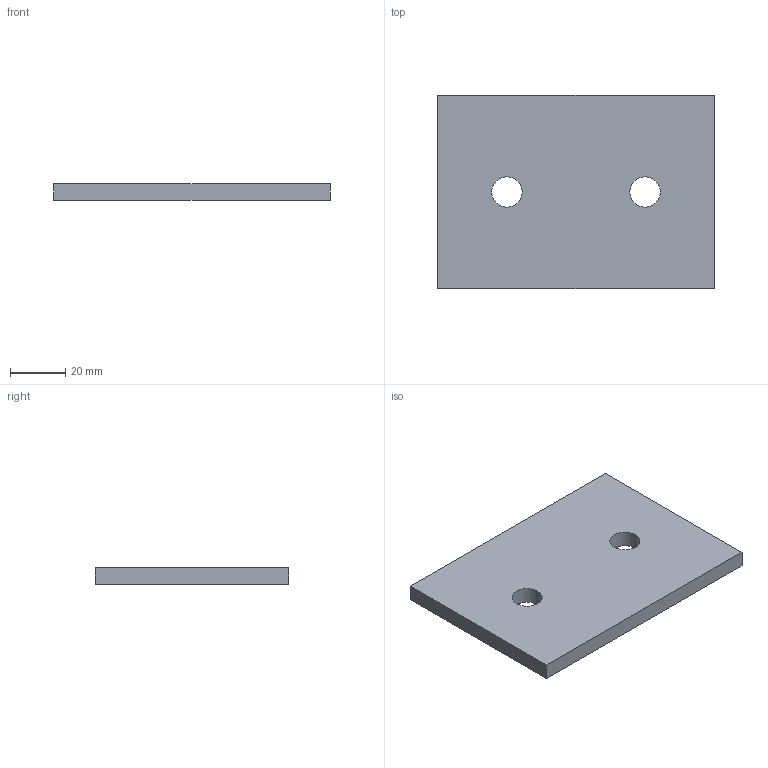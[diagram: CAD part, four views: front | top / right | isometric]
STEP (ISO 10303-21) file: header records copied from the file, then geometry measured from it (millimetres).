
FILE_DESCRIPTION(('Open CASCADE Model'),'2;1');
FILE_NAME('Open CASCADE Shape Model','2026-10-15T15:10:04',('Author'),( 'Open CASCADE'),'Open CASCADE STEP processor 8.0','Open CASCADE 8.0' ,'Unknown');
FILE_SCHEMA(('AUTOMOTIVE_DESIGN { 1 0 10303 214 1 1 1 1 }'));
Length unit declared in the file: millimetre
Products named in the file (1): J02_PLACA_100x70x6_P05 76
Bounding box: 100 x 70 x 6 mm (x, y, z)
Volume: 40859.6 mm3; surface area: 16074.6 mm2
Topology: 1 solids, 1 shells, 8 faces, 18 edges, 12 vertices
Faces by surface type: plane 6, cylinder 2
Full cylindrical faces by diameter (mm): 11 x2
Entity records: 478 total; most frequent: DIRECTION 76, CARTESIAN_POINT 75, LINE 46, VECTOR 46, ORIENTED_EDGE 36, PCURVE 36, DEFINITIONAL_REPRESENTATION 36, EDGE_CURVE 18
